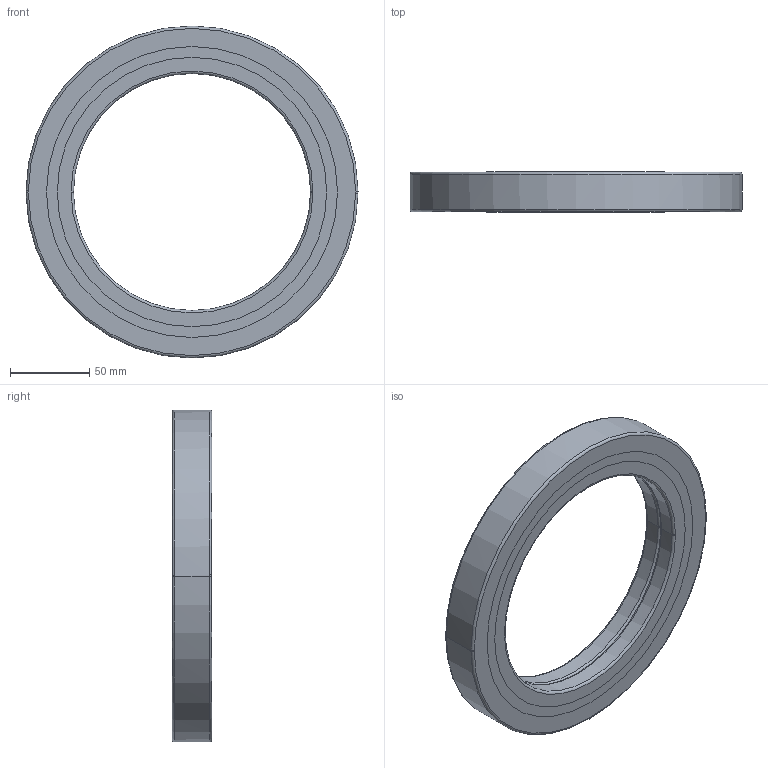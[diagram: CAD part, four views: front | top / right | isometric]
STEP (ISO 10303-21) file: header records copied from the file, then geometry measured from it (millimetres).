
FILE_DESCRIPTION(('no description'),'unknown implementation level');
FILE_NAME('CRBB15025_70.stp',' ',('HIWIN GmbH'),('CADClick - KiM GmbH - www.kimweb.de'),'unknown preprocess','ACIS','unknown authorization');
FILE_SCHEMA(('automotive_design'));
Length unit declared in the file: millimetre
Products named in the file (5): CRBB15025_1; CRBB15025_2; CRBB15025_3; CRBB15025_4; CRBB15025
Bounding box: 210 x 25 x 210 mm (x, y, z)
Volume: 341177.6 mm3; surface area: 109711.8 mm2
Topology: 5 solids, 5 shells, 54 faces, 120 edges, 76 vertices
Faces by surface type: torus 24, cylinder 20, plane 10
Entity records: 3096 total; most frequent: DIRECTION 338, STYLED_ITEM 255, PRESENTATION_STYLE_ASSIGNMENT 255, CARTESIAN_POINT 255, COLOUR_RGB 255, ORIENTED_EDGE 240, AXIS2_PLACEMENT_3D 159, EDGE_CURVE 120
